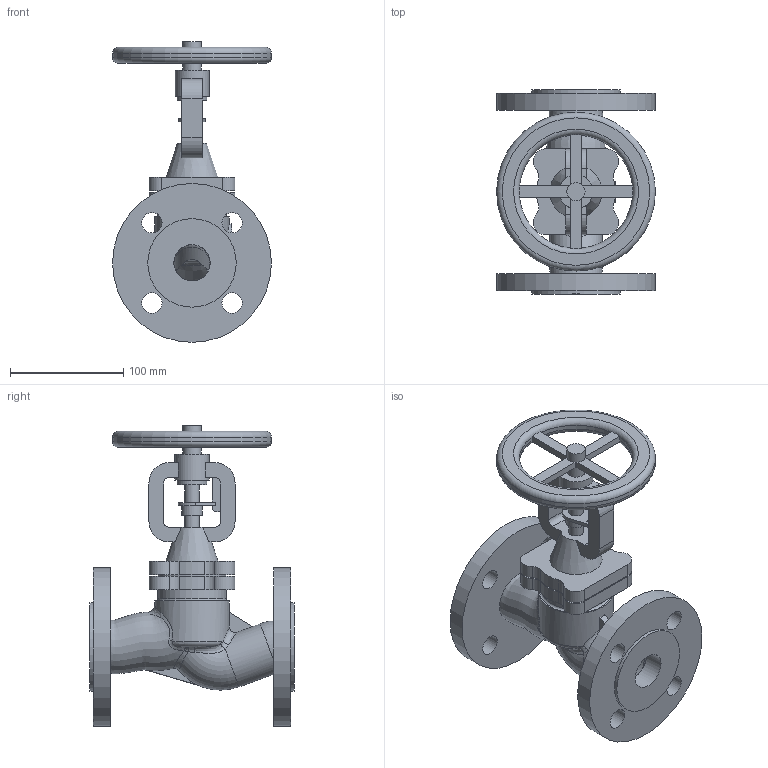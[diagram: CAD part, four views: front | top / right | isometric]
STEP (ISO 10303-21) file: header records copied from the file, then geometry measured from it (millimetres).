
FILE_DESCRIPTION(('STEP AP203'), '1');
FILE_NAME('孰囡囗 玎镱痦 BV1F DN32', '', ('UNSPECIFIED'), ('UNSPECIFIED'), 'ASCON STEP Converter 1.6', 'ASCON Math Kernel', '');
FILE_SCHEMA(('CONFIG_CONTROL_DESIGN'));
Length unit declared in the file: millimetre
Bounding box: 140 x 180 x 265 mm (x, y, z)
Volume: 1059299.9 mm3; surface area: 189876.7 mm2
Topology: 1 solids, 2 shells, 199 faces, 553 edges, 374 vertices
Faces by surface type: plane 93, cylinder 69, bspline 22, torus 14, cone 1
Full cylindrical faces by diameter (mm): 13 x2, 16 x1, 18 x9, 26 x1, 30 x1, 32 x3, 46 x1, 60 x2, 66 x1, 78 x2, 140 x3
Entity records: 45231 total; most frequent: CARTESIAN_POINT 38685, ORIENTED_EDGE 1034, DIRECTION 953, EDGE_CURVE 517, AXIS2_PLACEMENT_3D 386, VERTEX_POINT 374, EDGE_LOOP 279, FACE_BOUND 242
